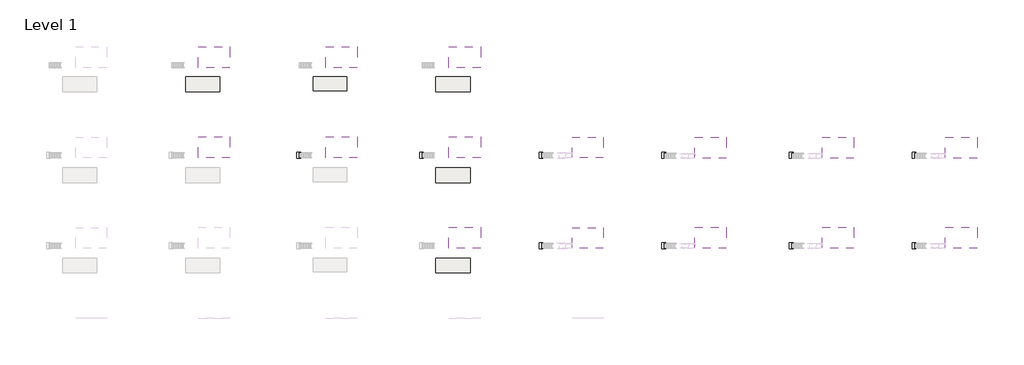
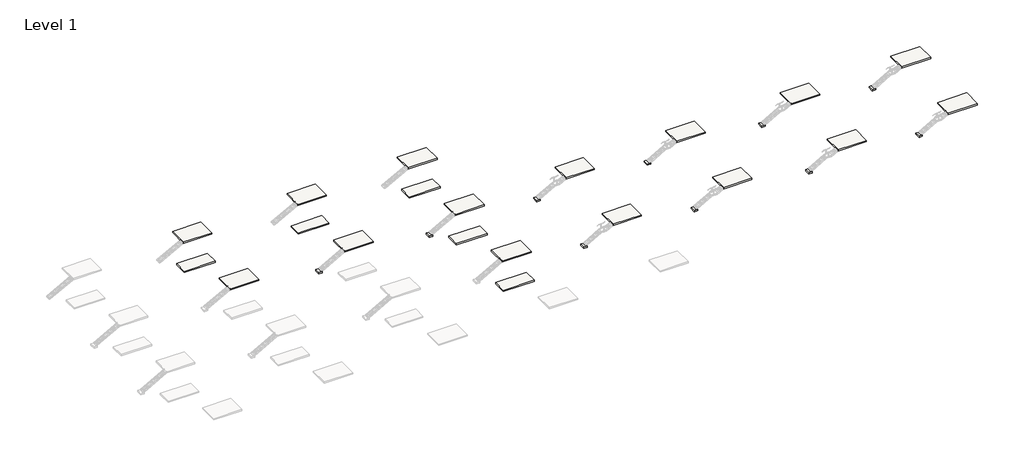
# One storey, part 2 of 26: 30 slabs.
"""IFC4 building model written with IfcOpenShell, lengths in millimetres."""

from ifc_helpers import new_model, si_unit, frame, origin, place, context, project, spatial, polyline, outline, extrude, element, save

model = new_model("IFC4")

# Units and contexts
model_context = context("Model", 3, world=origin())
ifc_project = project(units=[si_unit("LENGTHUNIT", "METRE", prefix="MILLI")], contexts=[model_context])

# Site, building, storey
site = spatial("IfcSite", under=ifc_project)
building = spatial("IfcBuilding", under=site)
storey = spatial("IfcBuildingStorey", under=building, Name="Level 1", Elevation=0.0)

# Slabs
placement = place(None, origin())
element("IfcSlab", 1, ObjectType="Generic - 7 3/4\"", at=placement, inside=storey, context=model_context, shape_type="SweptSolid", body=[
    extrude(outline(polyline([(70099.9592968, 10848.2093665), (63216.5592968, 10848.2093665), (63216.5592968, 13852.4487388), (70099.9592968, 13852.4487388), (70099.9592968, 10848.2093665)])), frame((0.0, 0.0, -296.7736), z_axis=(0.0, 0.0, 1.0), x_axis=(1.0, 0.0, 0.0)), (0.0, 0.0, 1.0), 296.7736),
])
element("IfcSlab", 2, ObjectType="Generic - 7 3/4\"", at=placement, inside=storey, context=model_context, shape_type="SweptSolid", body=[
    extrude(outline(polyline([(70099.9592968, 29009.2093665), (63216.5592968, 29009.2093665), (63216.5592968, 32013.4487388), (70099.9592968, 32013.4487388), (70099.9592968, 29009.2093665)])), frame((0.0, 0.0, -296.7736), z_axis=(0.0, 0.0, 1.0), x_axis=(1.0, 0.0, 0.0)), (0.0, 0.0, 1.0), 296.7736),
])
element("IfcSlab", 3, ObjectType="Generic - 7 3/4\"", at=placement, inside=storey, context=model_context, shape_type="SweptSolid", body=[
    extrude(outline(polyline([(36035.9234676, 33854.6395941), (35273.9234676, 33854.6395941), (35273.9234676, 35073.8395941), (36035.9234676, 35073.8395941), (36035.9234676, 33854.6395941)])), frame((0.0, 0.0, -296.7736), z_axis=(0.0, 0.0, 1.0), x_axis=(1.0, 0.0, 0.0)), (0.0, 0.0, 1.0), 296.7736),
])
element("IfcSlab", 4, ObjectType="Generic - 7 3/4\"", at=placement, inside=storey, context=model_context, shape_type="SweptSolid", body=[
    extrude(outline(polyline([(60712.8972397, 33854.6395941), (59950.8972397, 33854.6395941), (59950.8972397, 35073.8395941), (60712.8972397, 35073.8395941), (60712.8972397, 33854.6395941)])), frame((0.0, 0.0, -296.7736), z_axis=(0.0, 0.0, 1.0), x_axis=(1.0, 0.0, 0.0)), (0.0, 0.0, 1.0), 296.7736),
])
element("IfcSlab", 5, ObjectType="Generic - 7 3/4\"", at=placement, inside=storey, context=model_context, shape_type="SweptSolid", body=[
    extrude(outline(polyline([(19819.7855247, 47263.0739087), (12936.3855247, 47263.0739087), (12936.3855247, 50260.2739087), (19819.7855247, 50260.2739087), (19819.7855247, 47263.0739087)])), frame((0.0, 0.0, -296.7736), z_axis=(0.0, 0.0, 1.0), x_axis=(1.0, 0.0, 0.0)), (0.0, 0.0, 1.0), 296.7736),
])
element("IfcSlab", 6, ObjectType="Generic - 7 3/4\"", at=placement, inside=storey, context=model_context, shape_type="SweptSolid", body=[
    extrude(outline(polyline([(45346.7861192, 47466.2733142), (38539.5855247, 47466.2733142), (38539.5855247, 50260.2739087), (45346.7861192, 50260.2739087), (45346.7861192, 47466.2733142)])), frame((0.0, 0.0, -296.7736), z_axis=(0.0, 0.0, 1.0), x_axis=(1.0, 0.0, 0.0)), (0.0, 0.0, 1.0), 296.7736),
])
element("IfcSlab", 7, ObjectType="Generic - 7 3/4\"", at=placement, inside=storey, context=model_context, shape_type="SweptSolid", body=[
    extrude(outline(polyline([(70099.9592968, 47256.0345364), (63216.5592968, 47256.0345364), (63216.5592968, 50260.2739087), (70099.9592968, 50260.2739087), (70099.9592968, 47256.0345364)])), frame((0.0, 0.0, -296.7736), z_axis=(0.0, 0.0, 1.0), x_axis=(1.0, 0.0, 0.0)), (0.0, 0.0, 1.0), 296.7736),
])
element("IfcSlab", 8, ObjectType="Generic - 7 3/4\"", at=placement, inside=storey, context=model_context, shape_type="SweptSolid", body=[
    extrude(outline(polyline([(84743.5482046, 15693.6395941), (83981.5482046, 15693.6395941), (83981.5482046, 16912.8395941), (84743.5482046, 16912.8395941), (84743.5482046, 15693.6395941)])), frame((0.0, 0.0, -296.7736), z_axis=(0.0, 0.0, 1.0), x_axis=(1.0, 0.0, 0.0)), (0.0, 0.0, 1.0), 296.7736),
])
element("IfcSlab", 9, ObjectType="Generic - 7 3/4\"", at=placement, inside=storey, context=model_context, shape_type="SweptSolid", body=[
    extrude(outline(polyline([(109420.5219767, 15693.6395941), (108658.5219767, 15693.6395941), (108658.5219767, 16912.8395941), (109420.5219767, 16912.8395941), (109420.5219767, 15693.6395941)])), frame((0.0, 0.0, -296.7736), z_axis=(0.0, 0.0, 1.0), x_axis=(1.0, 0.0, 0.0)), (0.0, 0.0, 1.0), 296.7736),
])
element("IfcSlab", 10, ObjectType="Generic - 7 3/4\"", at=placement, inside=storey, context=model_context, shape_type="SweptSolid", body=[
    extrude(outline(polyline([(135023.7219767, 15693.6395941), (134261.7219767, 15693.6395941), (134261.7219767, 16912.8395941), (135023.7219767, 16912.8395941), (135023.7219767, 15693.6395941)])), frame((0.0, 0.0, -296.7736), z_axis=(0.0, 0.0, 1.0), x_axis=(1.0, 0.0, 0.0)), (0.0, 0.0, 1.0), 296.7736),
])
element("IfcSlab", 11, ObjectType="Generic - 7 3/4\"", at=placement, inside=storey, context=model_context, shape_type="SweptSolid", body=[
    extrude(outline(polyline([(159700.6957488, 15693.6395941), (158938.6957488, 15693.6395941), (158938.6957488, 16912.8395941), (159700.6957488, 16912.8395941), (159700.6957488, 15693.6395941)])), frame((0.0, 0.0, -296.7736), z_axis=(0.0, 0.0, 1.0), x_axis=(1.0, 0.0, 0.0)), (0.0, 0.0, 1.0), 296.7736),
])
element("IfcSlab", 12, ObjectType="Generic - 7 3/4\"", at=placement, inside=storey, context=model_context, shape_type="SweptSolid", body=[
    extrude(outline(polyline([(84743.5482046, 33854.6395941), (83981.5482046, 33854.6395941), (83981.5482046, 35073.8395941), (84743.5482046, 35073.8395941), (84743.5482046, 33854.6395941)])), frame((0.0, 0.0, -296.7736), z_axis=(0.0, 0.0, 1.0), x_axis=(1.0, 0.0, 0.0)), (0.0, 0.0, 1.0), 296.7736),
])
element("IfcSlab", 13, ObjectType="Generic - 7 3/4\"", at=placement, inside=storey, context=model_context, shape_type="SweptSolid", body=[
    extrude(outline(polyline([(109420.5219767, 33854.6395941), (108658.5219767, 33854.6395941), (108658.5219767, 35073.8395941), (109420.5219767, 35073.8395941), (109420.5219767, 33854.6395941)])), frame((0.0, 0.0, -296.7736), z_axis=(0.0, 0.0, 1.0), x_axis=(1.0, 0.0, 0.0)), (0.0, 0.0, 1.0), 296.7736),
])
element("IfcSlab", 14, ObjectType="Generic - 7 3/4\"", at=placement, inside=storey, context=model_context, shape_type="SweptSolid", body=[
    extrude(outline(polyline([(135023.7219767, 33854.6395941), (134261.7219767, 33854.6395941), (134261.7219767, 35073.8395941), (135023.7219767, 35073.8395941), (135023.7219767, 33854.6395941)])), frame((0.0, 0.0, -296.7736), z_axis=(0.0, 0.0, 1.0), x_axis=(1.0, 0.0, 0.0)), (0.0, 0.0, 1.0), 296.7736),
])
element("IfcSlab", 15, ObjectType="Generic - 7 3/4\"", at=placement, inside=storey, context=model_context, shape_type="SweptSolid", body=[
    extrude(outline(polyline([(159700.6957488, 33854.6395941), (158938.6957488, 33854.6395941), (158938.6957488, 35073.8395941), (159700.6957488, 35073.8395941), (159700.6957488, 33854.6395941)])), frame((0.0, 0.0, -296.7736), z_axis=(0.0, 0.0, 1.0), x_axis=(1.0, 0.0, 0.0)), (0.0, 0.0, 1.0), 296.7736),
])
element("IfcSlab", 16, ObjectType="Generic 11.5\"", at=placement, inside=storey, context=model_context, shape_type="SweptSolid", body=[
    extrude(outline(polyline([(72270.0310647, 15795.2395941), (65793.0310647, 15795.2395941), (65793.0310647, 20018.7009998), (72270.0310647, 20018.7009998), (72270.0310647, 15795.2395941)])), frame((0.0, 0.0, 2753.9188), z_axis=(0.0, 0.0, 1.0), x_axis=(1.0, 0.0, 0.0)), (0.0, 0.0, 1.0), 294.0812),
])
element("IfcSlab", 17, ObjectType="Generic 11.5\"", at=placement, inside=storey, context=model_context, shape_type="SweptSolid", body=[
    extrude(outline(polyline([(21837.4572927, 33956.2395941), (15512.8572927, 33956.2395941), (15512.8572927, 38179.7009998), (21837.4572927, 38179.7009998), (21837.4572927, 33956.2395941)])), frame((0.0, 0.0, 2753.9188), z_axis=(0.0, 0.0, 1.0), x_axis=(1.0, 0.0, 0.0)), (0.0, 0.0, 1.0), 294.0812),
])
element("IfcSlab", 18, ObjectType="Generic 11.5\"", at=placement, inside=storey, context=model_context, shape_type="SweptSolid", body=[
    extrude(outline(polyline([(47448.5953871, 33956.2395941), (41116.0572927, 33956.2395941), (41116.0572927, 38179.7009998), (47448.5953871, 38179.7009998), (47448.5953871, 33956.2395941)])), frame((0.0, 0.0, 2753.9188), z_axis=(0.0, 0.0, 1.0), x_axis=(1.0, 0.0, 0.0)), (0.0, 0.0, 1.0), 294.0812),
])
element("IfcSlab", 19, ObjectType="Generic 11.5\"", at=placement, inside=storey, context=model_context, shape_type="SweptSolid", body=[
    extrude(outline(polyline([(72270.0310647, 33956.2395941), (65793.0310647, 33956.2395941), (65793.0310647, 38179.7009998), (72270.0310647, 38179.7009998), (72270.0310647, 33956.2395941)])), frame((0.0, 0.0, 2753.9188), z_axis=(0.0, 0.0, 1.0), x_axis=(1.0, 0.0, 0.0)), (0.0, 0.0, 1.0), 294.0812),
])
element("IfcSlab", 20, ObjectType="Generic 11.5\"", at=placement, inside=storey, context=model_context, shape_type="SweptSolid", body=[
    extrude(outline(polyline([(21837.4572927, 52125.8739583), (15512.8572927, 52125.8739583), (15512.8572927, 56349.335364), (21837.4572927, 56349.335364), (21837.4572927, 52125.8739583)])), frame((0.0, 0.0, 2753.9188), z_axis=(0.0, 0.0, 1.0), x_axis=(1.0, 0.0, 0.0)), (0.0, 0.0, 1.0), 294.0812),
])
element("IfcSlab", 21, ObjectType="Generic 11.5\"", at=placement, inside=storey, context=model_context, shape_type="SweptSolid", body=[
    extrude(outline(polyline([(47448.5953871, 52125.8739583), (41116.0572927, 52125.8739583), (41116.0572927, 56349.335364), (47448.5953871, 56349.335364), (47448.5953871, 52125.8739583)])), frame((0.0, 0.0, 2753.9188), z_axis=(0.0, 0.0, 1.0), x_axis=(1.0, 0.0, 0.0)), (0.0, 0.0, 1.0), 294.0812),
])
element("IfcSlab", 22, ObjectType="Generic 11.5\"", at=placement, inside=storey, context=model_context, shape_type="SweptSolid", body=[
    extrude(outline(polyline([(72270.0310647, 52125.8739583), (65793.0310647, 52125.8739583), (65793.0310647, 56349.335364), (72270.0310647, 56349.335364), (72270.0310647, 52125.8739583)])), frame((0.0, 0.0, 2753.9188), z_axis=(0.0, 0.0, 1.0), x_axis=(1.0, 0.0, 0.0)), (0.0, 0.0, 1.0), 294.0812),
])
element("IfcSlab", 23, ObjectType="Generic 11.5\"", at=placement, inside=storey, context=model_context, shape_type="SweptSolid", body=[
    extrude(outline(polyline([(96872.0748368, 15795.2395941), (90616.0550425, 15795.2395941), (90616.0550425, 19986.2395941), (96872.0748368, 19986.2395941), (96872.0748368, 15795.2395941)])), frame((0.0, 0.0, 2753.9188), z_axis=(0.0, 0.0, 1.0), x_axis=(1.0, 0.0, 0.0)), (0.0, 0.0, 1.0), 294.0812),
])
element("IfcSlab", 24, ObjectType="Generic 11.5\"", at=placement, inside=storey, context=model_context, shape_type="SweptSolid", body=[
    extrude(outline(polyline([(121617.6288146, 15795.2349585), (115293.0288146, 15795.2349585), (115293.0288146, 20018.6963642), (121617.6288146, 20018.6963642), (121617.6288146, 15795.2349585)])), frame((0.0, 0.0, 2753.9188), z_axis=(0.0, 0.0, 1.0), x_axis=(1.0, 0.0, 0.0)), (0.0, 0.0, 1.0), 294.0812),
])
element("IfcSlab", 25, ObjectType="Generic 11.5\"", at=placement, inside=storey, context=model_context, shape_type="SweptSolid", body=[
    extrude(outline(polyline([(147228.766909, 15795.234364), (140896.2288146, 15795.234364), (140896.2288146, 20018.6957697), (147228.766909, 20018.6957697), (147228.766909, 15795.234364)])), frame((0.0, 0.0, 2753.9188), z_axis=(0.0, 0.0, 1.0), x_axis=(1.0, 0.0, 0.0)), (0.0, 0.0, 1.0), 294.0812),
])
element("IfcSlab", 26, ObjectType="Generic 11.5\"", at=placement, inside=storey, context=model_context, shape_type="SweptSolid", body=[
    extrude(outline(polyline([(172050.2025866, 15795.2395941), (165573.2025866, 15795.2395941), (165573.2025866, 20018.7009998), (172050.2025866, 20018.7009998), (172050.2025866, 15795.2395941)])), frame((0.0, 0.0, 2753.9188), z_axis=(0.0, 0.0, 1.0), x_axis=(1.0, 0.0, 0.0)), (0.0, 0.0, 1.0), 294.0812),
])
element("IfcSlab", 27, ObjectType="Generic 11.5\"", at=placement, inside=storey, context=model_context, shape_type="SweptSolid", body=[
    extrude(outline(polyline([(96872.0748368, 33956.2395941), (90616.0550425, 33956.2395941), (90616.0550425, 38147.2395941), (96872.0748368, 38147.2395941), (96872.0748368, 33956.2395941)])), frame((0.0, 0.0, 2753.9188), z_axis=(0.0, 0.0, 1.0), x_axis=(1.0, 0.0, 0.0)), (0.0, 0.0, 1.0), 294.0812),
])
element("IfcSlab", 28, ObjectType="Generic 11.5\"", at=placement, inside=storey, context=model_context, shape_type="SweptSolid", body=[
    extrude(outline(polyline([(121617.6288146, 33876.3265585), (115293.0288146, 33876.3265585), (115293.0288146, 38099.7879642), (121617.6288146, 38099.7879642), (121617.6288146, 33876.3265585)])), frame((0.0, 0.0, 2753.9188), z_axis=(0.0, 0.0, 1.0), x_axis=(1.0, 0.0, 0.0)), (0.0, 0.0, 1.0), 294.0812),
])
element("IfcSlab", 29, ObjectType="Generic 11.5\"", at=placement, inside=storey, context=model_context, shape_type="SweptSolid", body=[
    extrude(outline(polyline([(147228.766909, 33876.3213284), (140896.2288146, 33876.3213284), (140896.2288146, 38099.7827341), (147228.766909, 38099.7827341), (147228.766909, 33876.3213284)])), frame((0.0, 0.0, 2753.9188), z_axis=(0.0, 0.0, 1.0), x_axis=(1.0, 0.0, 0.0)), (0.0, 0.0, 1.0), 294.0812),
])
element("IfcSlab", 30, ObjectType="Generic 11.5\"", at=placement, inside=storey, context=model_context, shape_type="SweptSolid", body=[
    extrude(outline(polyline([(172050.2025866, 33876.3213284), (165573.2025866, 33876.3213284), (165573.2025866, 38099.7827341), (172050.2025866, 38099.7827341), (172050.2025866, 33876.3213284)])), frame((0.0, 0.0, 2753.9188), z_axis=(0.0, 0.0, 1.0), x_axis=(1.0, 0.0, 0.0)), (0.0, 0.0, 1.0), 294.0812),
])

save(model, "model.ifc")
